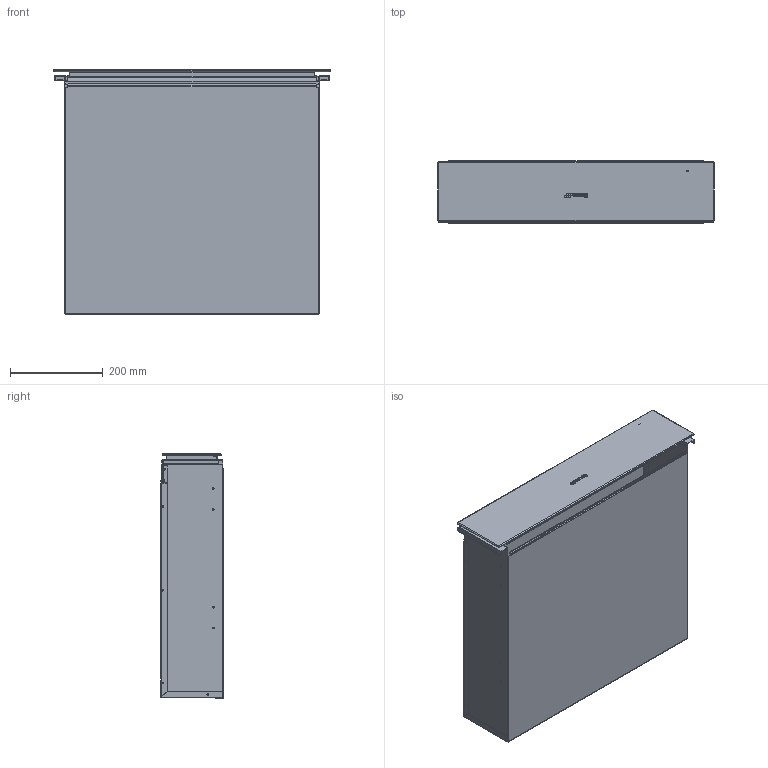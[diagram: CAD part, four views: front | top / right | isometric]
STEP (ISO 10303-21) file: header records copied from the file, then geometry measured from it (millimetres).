
FILE_DESCRIPTION (( 'STEP AP203' ), '1' );
FILE_NAME ('SMEG CPRT115G.STEP', '2023-07-10T10:06:12', ( '' ), ( '' ), 'SwSTEP 2.0', 'SolidWorks 2023', '' );
FILE_SCHEMA (( 'CONFIG_CONTROL_DESIGN' ));
Length unit declared in the file: millimetre
Products named in the file (14): CL903913_345105297; B15080002800; 9811481; S975250140; 2646610_345105115; VR34500105902_345105126 Destra; 1720661; 2646611_2646611; VR903912_CL903912; SMEG CPRT115G; 9811478; 9811482; 9811483; VR34500106002_345105128 Sinistra
Assembly tree (16 placements, depth 5):
  SMEG CPRT115G
    9811478
      2646610_345105115
      2646611_2646611
      VR903912_CL903912
      S975250140
    9811481
      9811482
        9811483
          CL903913_345105297
          B15080002800  x4
        1720661
    VR34500105902_345105126 Destra
    VR34500106002_345105128 Sinistra
Bounding box: 597 x 135 x 527.45 mm (x, y, z)
Volume: 1077224.5 mm3; surface area: 2023443 mm2
Topology: 12 solids, 12 shells, 1282 faces, 3199 edges, 1959 vertices
Faces by surface type: cylinder 543, plane 499, torus 196, bspline 28, cone 8, sphere 8
Entity records: 29890 total; most frequent: CARTESIAN_POINT 6578, DIRECTION 4610, ORIENTED_EDGE 4474, EDGE_CURVE 2237, AXIS2_PLACEMENT_3D 1641, VERTEX_POINT 1383, LINE 1328, VECTOR 1328
